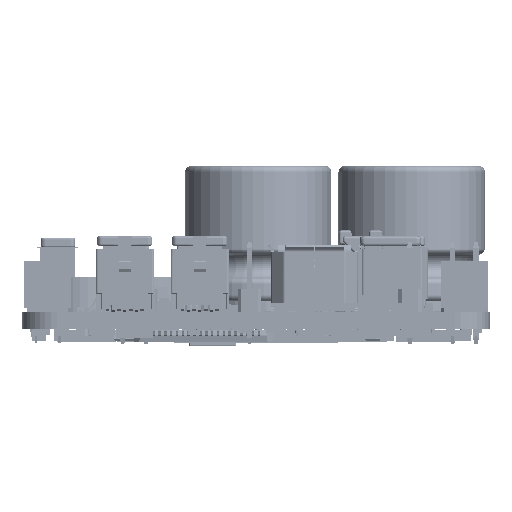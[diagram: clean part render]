
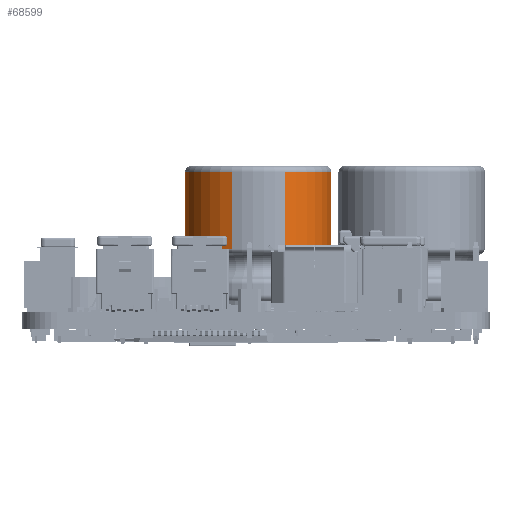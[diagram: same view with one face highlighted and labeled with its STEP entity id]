
A CAD part, left-side view. The second image highlights one B-rep face of the part: STEP entity #68599.
In plain terms, the highlighted cylindrical face has radius 6.25 mm (diameter 12.5 mm), a partial arc.
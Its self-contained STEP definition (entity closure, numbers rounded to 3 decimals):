
#68571 = VERTEX_POINT('',#68572);
#68572 = CARTESIAN_POINT('',(5.815,0.5,2.291));
#68579 = EDGE_CURVE('',#68571,#68580,#68582,.T.);
#68580 = VERTEX_POINT('',#68581);
#68581 = CARTESIAN_POINT('',(5.815,0.5,-2.291));
#68582 = CIRCLE('',#68583,6.25);
#68583 = AXIS2_PLACEMENT_3D('',#68584,#68585,#68586);
#68584 = CARTESIAN_POINT('',(0.,0.5,0.));
#68585 = DIRECTION('',(0.,-1.,0.));
#68586 = DIRECTION('',(0.93,0.,0.367));
#68599 = ADVANCED_FACE('',(#68600),#68626,.T.);
#68600 = FACE_BOUND('',#68601,.T.);
#68601 = EDGE_LOOP('',(#68602,#68603,#68611,#68620));
#68602 = ORIENTED_EDGE('',*,*,#68579,.F.);
#68603 = ORIENTED_EDGE('',*,*,#68604,.T.);
#68604 = EDGE_CURVE('',#68571,#68605,#68607,.T.);
#68605 = VERTEX_POINT('',#68606);
#68606 = CARTESIAN_POINT('',(5.815,7.05,2.291));
#68607 = LINE('',#68608,#68609);
#68608 = CARTESIAN_POINT('',(5.815,0.5,2.291));
#68609 = VECTOR('',#68610,1.);
#68610 = DIRECTION('',(0.,1.,0.));
#68611 = ORIENTED_EDGE('',*,*,#68612,.T.);
#68612 = EDGE_CURVE('',#68605,#68613,#68615,.T.);
#68613 = VERTEX_POINT('',#68614);
#68614 = CARTESIAN_POINT('',(5.815,7.05,-2.291));
#68615 = CIRCLE('',#68616,6.25);
#68616 = AXIS2_PLACEMENT_3D('',#68617,#68618,#68619);
#68617 = CARTESIAN_POINT('',(0.,7.05,0.));
#68618 = DIRECTION('',(0.,-1.,0.));
#68619 = DIRECTION('',(0.93,0.,0.367));
#68620 = ORIENTED_EDGE('',*,*,#68621,.F.);
#68621 = EDGE_CURVE('',#68580,#68613,#68622,.T.);
#68622 = LINE('',#68623,#68624);
#68623 = CARTESIAN_POINT('',(5.815,0.5,-2.291));
#68624 = VECTOR('',#68625,1.);
#68625 = DIRECTION('',(0.,1.,0.));
#68626 = CYLINDRICAL_SURFACE('',#68627,6.25);
#68627 = AXIS2_PLACEMENT_3D('',#68628,#68629,#68630);
#68628 = CARTESIAN_POINT('',(0.,0.,0.));
#68629 = DIRECTION('',(0.,-1.,0.));
#68630 = DIRECTION('',(0.,0.,-1.));
